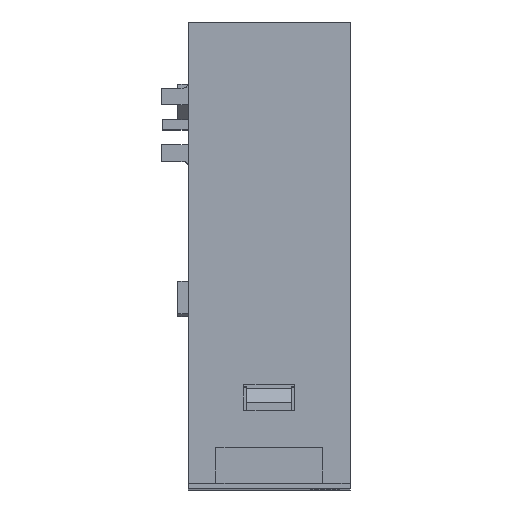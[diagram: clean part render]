
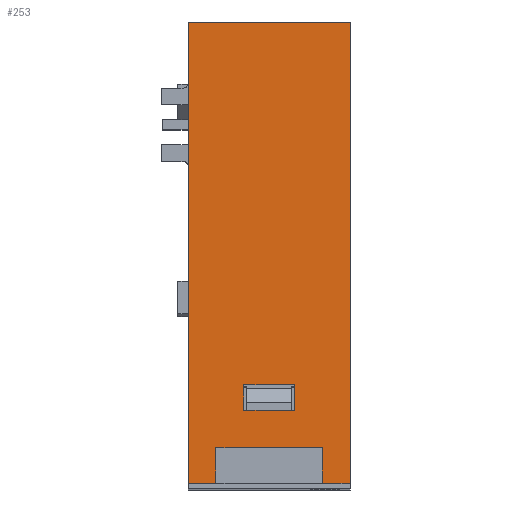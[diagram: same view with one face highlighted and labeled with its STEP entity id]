
A CAD part, top view. The second image highlights one B-rep face of the part: STEP entity #253.
In plain terms, the highlighted planar face has unit normal (0, 0, 1).
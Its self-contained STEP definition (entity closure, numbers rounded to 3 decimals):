
#253=ADVANCED_FACE('',(#2449,#2450),#2448,.T.);
#2448=PLANE('',#4032);
#2449=FACE_OUTER_BOUND('',#4033,.T.);
#2450=FACE_BOUND('',#4034,.T.);
#4029=CARTESIAN_POINT('',(-1.6,-55.05,62.2));
#4030=DIRECTION('',(0.,0.,1.));
#4031=DIRECTION('',(1.,0.,0.));
#4032=AXIS2_PLACEMENT_3D('',#4029,#4030,#4031);
#4033=EDGE_LOOP('',(#5414,#5415,#5416,#5417,#5418,#5419,#5420,#5421));
#4034=EDGE_LOOP('',(#5422,#5423,#5424,#5425));
#5414=ORIENTED_EDGE('',*,*,#6272,.F.);
#5415=ORIENTED_EDGE('',*,*,#6346,.T.);
#5416=ORIENTED_EDGE('',*,*,#5715,.F.);
#5417=ORIENTED_EDGE('',*,*,#6347,.F.);
#5418=ORIENTED_EDGE('',*,*,#6348,.T.);
#5419=ORIENTED_EDGE('',*,*,#6349,.T.);
#5420=ORIENTED_EDGE('',*,*,#6264,.F.);
#5421=ORIENTED_EDGE('',*,*,#6244,.F.);
#5422=ORIENTED_EDGE('',*,*,#6248,.F.);
#5423=ORIENTED_EDGE('',*,*,#6254,.F.);
#5424=ORIENTED_EDGE('',*,*,#6256,.F.);
#5425=ORIENTED_EDGE('',*,*,#6259,.F.);
#5715=EDGE_CURVE('',#6536,#6543,#6544,.T.);
#6244=EDGE_CURVE('',#10079,#10080,#10081,.T.);
#6248=EDGE_CURVE('',#10107,#10108,#10109,.T.);
#6254=EDGE_CURVE('',#10142,#10107,#10149,.T.);
#6256=EDGE_CURVE('',#10161,#10142,#10162,.T.);
#6259=EDGE_CURVE('',#10108,#10161,#10181,.T.);
#6264=EDGE_CURVE('',#10080,#10214,#10215,.T.);
#6272=EDGE_CURVE('',#10262,#10079,#10269,.T.);
#6346=EDGE_CURVE('',#10262,#6543,#10755,.T.);
#6347=EDGE_CURVE('',#10761,#6536,#10762,.T.);
#6348=EDGE_CURVE('',#10761,#10768,#10769,.T.);
#6349=EDGE_CURVE('',#10768,#10214,#10775,.T.);
#6536=VERTEX_POINT('',#11158);
#6543=VERTEX_POINT('',#11162);
#6544=LINE('',#11163,#11164);
#10079=VERTEX_POINT('',#13173);
#10080=VERTEX_POINT('',#13174);
#10081=LINE('',#13175,#13176);
#10107=VERTEX_POINT('',#13189);
#10108=VERTEX_POINT('',#13190);
#10109=LINE('',#13191,#13192);
#10142=VERTEX_POINT('',#13209);
#10149=LINE('',#13213,#13214);
#10161=VERTEX_POINT('',#13219);
#10162=LINE('',#13220,#13221);
#10181=LINE('',#13230,#13231);
#10214=VERTEX_POINT('',#13248);
#10215=LINE('',#13249,#13250);
#10262=VERTEX_POINT('',#13275);
#10269=LINE('',#13279,#13280);
#10755=LINE('',#13551,#13552);
#10761=VERTEX_POINT('',#13554);
#10762=LINE('',#13555,#13556);
#10768=VERTEX_POINT('',#13558);
#10769=LINE('',#13559,#13560);
#10775=LINE('',#13562,#13563);
#11158=CARTESIAN_POINT('',(16.,-5.,62.2));
#11162=CARTESIAN_POINT('',(16.,-50.5,62.2));
#11163=CARTESIAN_POINT('',(16.,-5.,62.2));
#11164=VECTOR('',#11165,45.5);
#11165=DIRECTION('',(0.,-1.,0.));
#13173=CARTESIAN_POINT('',(13.25,-47.,62.2));
#13174=CARTESIAN_POINT('',(2.75,-47.,62.2));
#13175=CARTESIAN_POINT('',(13.25,-47.,62.2));
#13176=VECTOR('',#13177,10.5);
#13177=DIRECTION('',(-1.,0.,0.));
#13189=CARTESIAN_POINT('',(10.5,-43.3,62.2));
#13190=CARTESIAN_POINT('',(10.5,-40.8,62.2));
#13191=CARTESIAN_POINT('',(10.5,-43.3,62.2));
#13192=VECTOR('',#13193,2.5);
#13193=DIRECTION('',(0.,1.,0.));
#13209=CARTESIAN_POINT('',(5.5,-43.3,62.2));
#13213=CARTESIAN_POINT('',(5.5,-43.3,62.2));
#13214=VECTOR('',#13215,5.);
#13215=DIRECTION('',(1.,0.,0.));
#13219=CARTESIAN_POINT('',(5.5,-40.8,62.2));
#13220=CARTESIAN_POINT('',(5.5,-40.8,62.2));
#13221=VECTOR('',#13222,2.5);
#13222=DIRECTION('',(0.,-1.,0.));
#13230=CARTESIAN_POINT('',(10.5,-40.8,62.2));
#13231=VECTOR('',#13232,5.);
#13232=DIRECTION('',(-1.,0.,0.));
#13248=CARTESIAN_POINT('',(2.75,-50.5,62.2));
#13249=CARTESIAN_POINT('',(2.75,-47.,62.2));
#13250=VECTOR('',#13251,3.5);
#13251=DIRECTION('',(0.,-1.,0.));
#13275=CARTESIAN_POINT('',(13.25,-50.5,62.2));
#13279=CARTESIAN_POINT('',(13.25,-50.5,62.2));
#13280=VECTOR('',#13281,3.5);
#13281=DIRECTION('',(0.,1.,0.));
#13551=CARTESIAN_POINT('',(13.25,-50.5,62.2));
#13552=VECTOR('',#13553,2.75);
#13553=DIRECTION('',(1.,0.,0.));
#13554=CARTESIAN_POINT('',(0.,-5.,62.2));
#13555=CARTESIAN_POINT('',(0.,-5.,62.2));
#13556=VECTOR('',#13557,16.);
#13557=DIRECTION('',(1.,0.,0.));
#13558=CARTESIAN_POINT('',(0.,-50.5,62.2));
#13559=CARTESIAN_POINT('',(0.,-5.,62.2));
#13560=VECTOR('',#13561,45.5);
#13561=DIRECTION('',(0.,-1.,0.));
#13562=CARTESIAN_POINT('',(0.,-50.5,62.2));
#13563=VECTOR('',#13564,2.75);
#13564=DIRECTION('',(1.,0.,0.));
